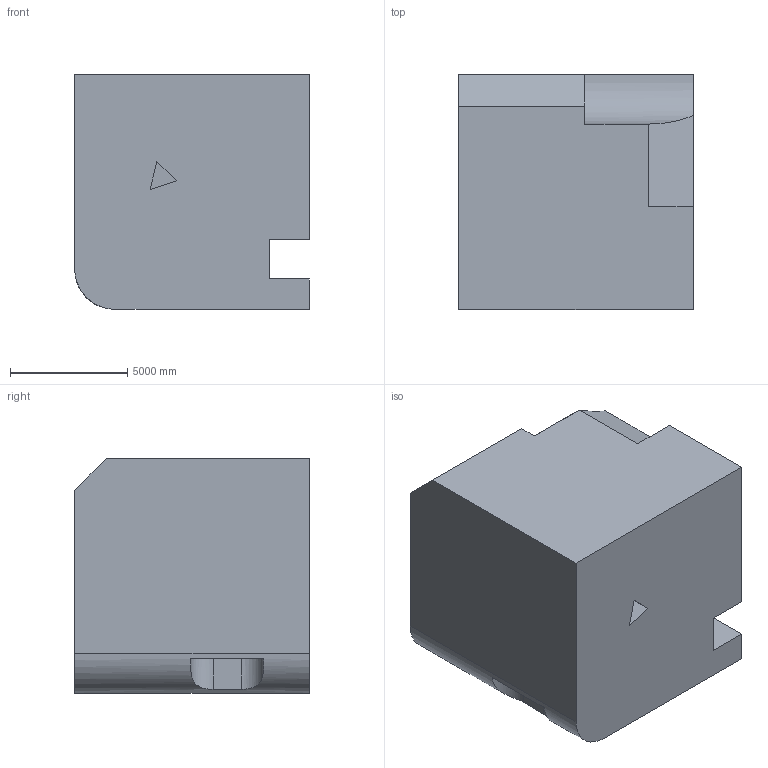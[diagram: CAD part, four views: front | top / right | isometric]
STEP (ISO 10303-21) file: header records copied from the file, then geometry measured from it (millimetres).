
FILE_DESCRIPTION (( 'STEP AP203' ), '1' );
FILE_NAME ('881.STEP', '2022-07-29T13:57:44', ( 'user' ), ( '' ), 'SwSTEP 2.0', 'SolidWorks 2021', '' );
FILE_SCHEMA (( 'CONFIG_CONTROL_DESIGN' ));
Length unit declared in the file: centimetre
Products named in the file (1): 881
Bounding box: 10000 x 10000 x 10000 mm (x, y, z)
Volume: 918395221041.4 mm3; surface area: 672976935.9 mm2
Topology: 1 solids, 1 shells, 37 faces, 90 edges, 60 vertices
Faces by surface type: plane 29, cylinder 8
Entity records: 1330 total; most frequent: CARTESIAN_POINT 370, ORIENTED_EDGE 180, DIRECTION 177, EDGE_CURVE 90, VECTOR 73, LINE 73, VERTEX_POINT 60, AXIS2_PLACEMENT_3D 52
